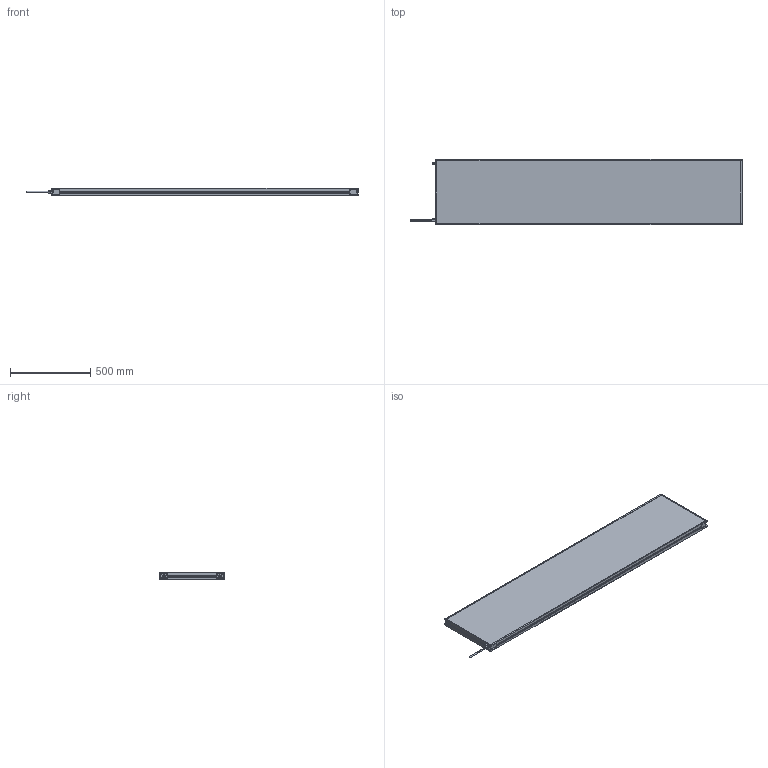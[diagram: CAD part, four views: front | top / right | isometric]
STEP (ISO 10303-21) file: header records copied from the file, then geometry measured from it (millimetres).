
FILE_DESCRIPTION (( 'STEP AP214' ), '1' );
FILE_NAME ('MBACK-xxxx-xxx-M1A2_CLIENT400x1900.STEP', '2022-04-01T11:37:46', ( '' ), ( '' ), 'SwSTEP 2.0', 'SolidWorks 2020', '' );
FILE_SCHEMA (( 'AUTOMOTIVE_DESIGN' ));
Length unit declared in the file: millimetre
Products named in the file (1): MBACK-xxxx-xxx-M1A2_CLIENT400x1900
Bounding box: 2067.4 x 408 x 45.5 mm (x, y, z)
Volume: 32416981.5 mm3; surface area: 1870635.8 mm2
Topology: 1 solids, 1 shells, 470 faces, 1210 edges, 804 vertices
Faces by surface type: plane 265, cylinder 117, bspline 80, cone 8
Entity records: 18046 total; most frequent: CARTESIAN_POINT 6837, ORIENTED_EDGE 2420, DIRECTION 2082, EDGE_CURVE 1210, VERTEX_POINT 804, VECTOR 800, LINE 800, AXIS2_PLACEMENT_3D 641
